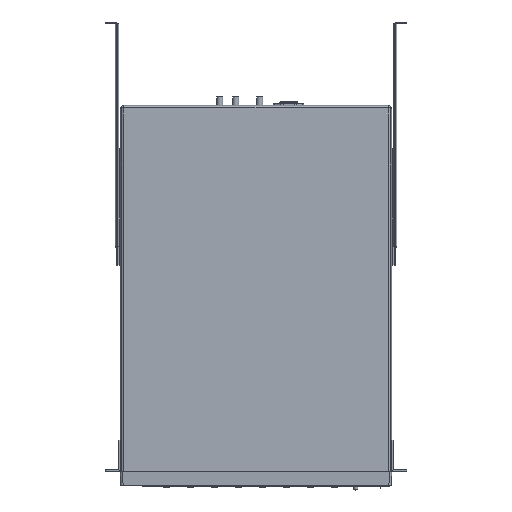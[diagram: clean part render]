
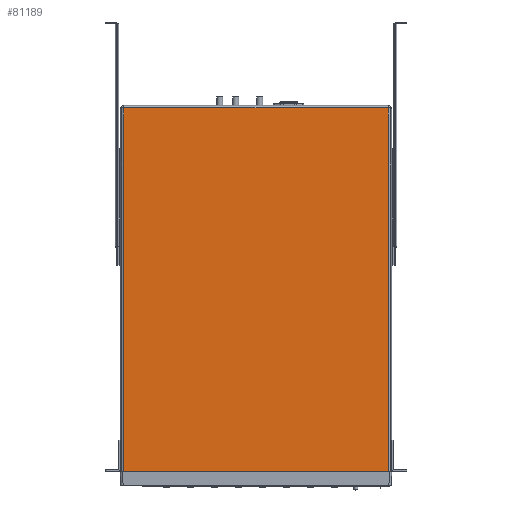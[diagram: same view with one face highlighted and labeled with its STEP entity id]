
A CAD part, top view. The second image highlights one B-rep face of the part: STEP entity #81189.
In plain terms, the highlighted planar face has unit normal (0, 0, 1).
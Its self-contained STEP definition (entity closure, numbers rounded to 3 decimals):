
#8491=DIRECTION('',(0.,-1.,0.));
#8492=VECTOR('',#8491,578.85);
#8493=CARTESIAN_POINT('',(-210.75,578.85,42.8));
#8494=LINE('',#8493,#8492);
#22529=DIRECTION('',(-1.,0.,0.));
#22530=VECTOR('',#22529,421.5);
#22531=CARTESIAN_POINT('',(210.75,0.,42.8));
#22532=LINE('',#22531,#22530);
#22533=DIRECTION('',(0.,-1.,0.));
#22534=VECTOR('',#22533,578.85);
#22535=CARTESIAN_POINT('',(210.75,578.85,42.8));
#22536=LINE('',#22535,#22534);
#22537=DIRECTION('',(-1.,0.,0.));
#22538=VECTOR('',#22537,421.5);
#22539=CARTESIAN_POINT('',(210.75,578.85,42.8));
#22540=LINE('',#22539,#22538);
#34278=CARTESIAN_POINT('',(210.75,0.,42.8));
#34279=VERTEX_POINT('',#34278);
#34281=CARTESIAN_POINT('',(210.75,578.85,42.8));
#34283=VERTEX_POINT('',#34281);
#34284=CARTESIAN_POINT('',(-210.75,0.,42.8));
#34285=VERTEX_POINT('',#34284);
#34286=CARTESIAN_POINT('',(-210.75,578.85,42.8));
#34287=VERTEX_POINT('',#34286);
#81176=CARTESIAN_POINT('',(0.,289.425,42.8));
#81177=DIRECTION('',(0.,0.,1.));
#81178=DIRECTION('',(1.,0.,0.));
#81179=AXIS2_PLACEMENT_3D('',#81176,#81177,#81178);
#81180=PLANE('',#81179);
#81181=ORIENTED_EDGE('',*,*,#75524,.T.);
#81182=ORIENTED_EDGE('',*,*,#57384,.F.);
#81184=ORIENTED_EDGE('',*,*,#81183,.F.);
#81186=ORIENTED_EDGE('',*,*,#81185,.T.);
#81187=EDGE_LOOP('',(#81181,#81182,#81184,#81186));
#81188=FACE_OUTER_BOUND('',#81187,.F.);
#81189=ADVANCED_FACE('',(#81188),#81180,.T.);
#57384=EDGE_CURVE('',#34287,#34285,#8494,.T.);
#75524=EDGE_CURVE('',#34279,#34285,#22532,.T.);
#81183=EDGE_CURVE('',#34283,#34287,#22540,.T.);
#81185=EDGE_CURVE('',#34283,#34279,#22536,.T.);
